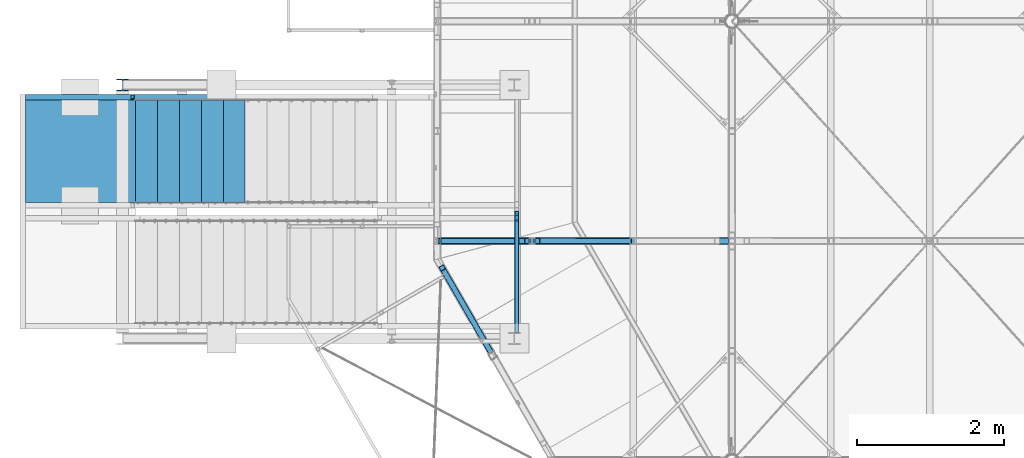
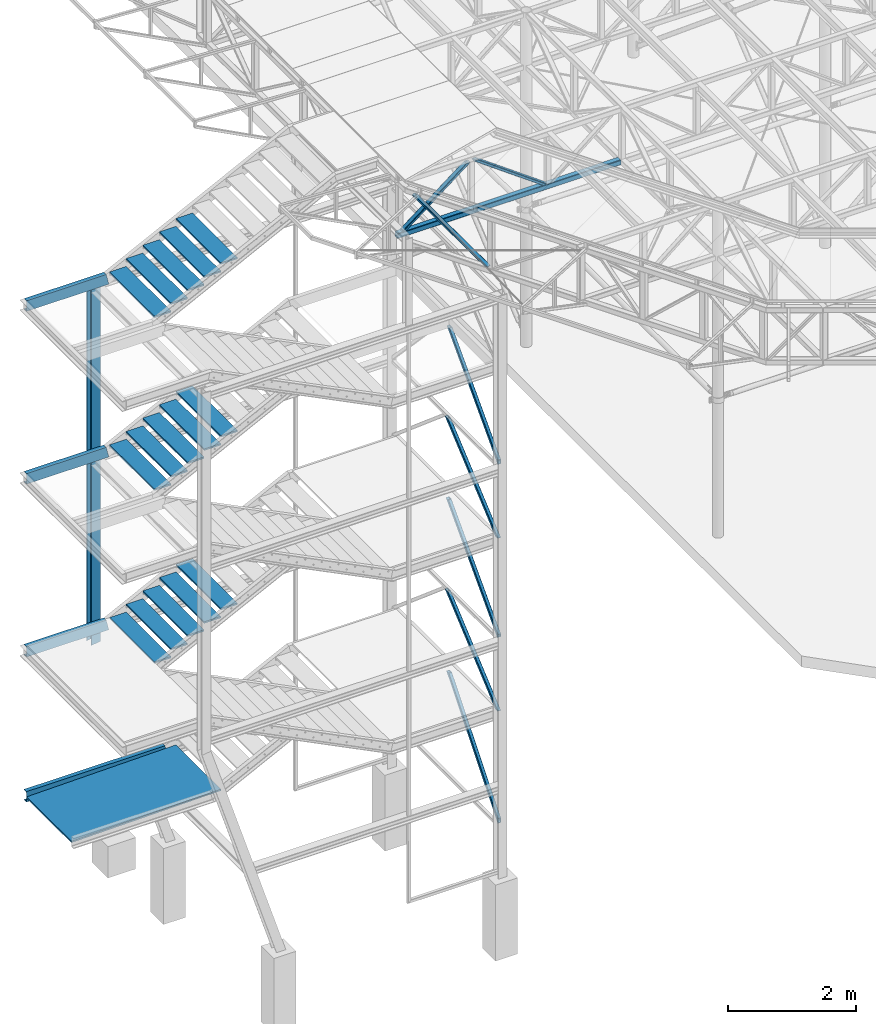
# One storey, part 39 of 132: 30 discrete accessories, 28 elements without a shape of their own.
"""IFC2X3 building model written with IfcOpenShell, lengths in millimetres."""

import ifcopenshell
import ifcopenshell.guid

model = None  # the IFC model being written
_history = None  # IfcOwnerHistory: only IFC2X3 demands one
_inside = {}  # id of a spatial element -> (the spatial element, [elements in it])
_under = {}  # id of a project, library or spatial element -> (it, [spatial elements below it])
_declared = {}  # id of a project -> (the project, [libraries it declares])
_typed = {}  # id of a type object -> (the type object, [elements of that type])
_made_of = {}  # id of a material, layer set ... -> (it, [elements and type objects made of it])


def new_model(schema):
    """Start an empty IFC model of exactly this schema.

    Asked for "IFC4X3", IfcOpenShell would pick the latest addendum, in which some entities
    have other attributes; the version numbers below select the first issue.
    IFC2X3 requires an IfcOwnerHistory on every rooted entity: one is made here for all.
    """
    global model, _history
    if schema == "IFC4X3":
        model = ifcopenshell.file(schema_version=(4, 3, 0, 0))
    else:
        model = ifcopenshell.file(schema=schema)
    _inside.clear()
    _under.clear()
    _declared.clear()
    _typed.clear()
    _made_of.clear()
    _history = None
    if model.schema == "IFC2X3":
        org = make("IfcOrganization", Name="unknown")
        user = make(
            "IfcPersonAndOrganization",
            ThePerson=make("IfcPerson", FamilyName="unknown"),
            TheOrganization=org,
        )
        app = make(
            "IfcApplication",
            ApplicationDeveloper=org,
            Version="unknown",
            ApplicationFullName="unknown",
            ApplicationIdentifier="unknown",
        )
        _history = make(
            "IfcOwnerHistory",
            OwningUser=user,
            OwningApplication=app,
            ChangeAction="ADDED",
            CreationDate=0,
        )
    return model


def make(cls, **values):
    """One entity of the class cls with the attributes given. An attribute that is None is left unset."""
    return model.create_entity(
        cls, **{name: value for name, value in values.items() if value is not None}
    )


def rooted(cls, **values):
    """An entity with a GlobalId (a new one), such as an element, a storey or a relation."""
    return make(cls, GlobalId=ifcopenshell.guid.new(), OwnerHistory=_history, **values)


def si_unit(unit_type, name, prefix=None):
    """IfcSIUnit, for example si_unit("LENGTHUNIT", "METRE", prefix="MILLI")."""
    return make("IfcSIUnit", UnitType=unit_type, Prefix=prefix, Name=name)


def assignment(units):
    """IfcUnitAssignment: the units of a project."""
    return None if units is None else make("IfcUnitAssignment", Units=units)


def point(xyz):
    """IfcCartesianPoint."""
    return None if xyz is None else make("IfcCartesianPoint", Coordinates=xyz)


def direction(xyz):
    """IfcDirection."""
    return None if xyz is None else make("IfcDirection", DirectionRatios=xyz)


def frame(location, z_axis=None, x_axis=None):
    """IfcAxis2Placement3D, a coordinate frame: its origin and axes. An axis left out is left unset."""
    return make(
        "IfcAxis2Placement3D",
        Location=point(location),
        Axis=direction(z_axis),
        RefDirection=direction(x_axis),
    )


def frame_2d(location, x_axis=None):
    """IfcAxis2Placement2D, a coordinate frame in the plane: its origin and x axis."""
    return make(
        "IfcAxis2Placement2D", Location=point(location), RefDirection=direction(x_axis)
    )


def origin_with_axes():
    """The frame at (0, 0, 0) with the z axis (0, 0, 1) and the x axis (1, 0, 0) written out."""
    return frame((0.0, 0.0, 0.0), z_axis=(0.0, 0.0, 1.0), x_axis=(1.0, 0.0, 0.0))


def origin_2d_with_axis():
    """The frame at (0, 0) in the plane with the x axis (1, 0) written out."""
    return frame_2d((0.0, 0.0), x_axis=(1.0, 0.0))


def place(relative_to, where):
    """IfcLocalPlacement: puts the frame where relative to a parent placement (None: the world)."""
    return make(
        "IfcLocalPlacement", PlacementRelTo=relative_to, RelativePlacement=where
    )


def context(
    kind, dimensions, precision=None, world=None, true_north=None, identifier=None
):
    """IfcGeometricRepresentationContext, for example the 3D "Model" context."""
    return make(
        "IfcGeometricRepresentationContext",
        ContextIdentifier=identifier,
        ContextType=kind,
        CoordinateSpaceDimension=dimensions,
        Precision=precision,
        WorldCoordinateSystem=world,
        TrueNorth=true_north,
    )


def subcontext(parent, identifier, kind, view, scale=None):
    """IfcGeometricRepresentationSubContext, for example "Body" below "Model"."""
    return make(
        "IfcGeometricRepresentationSubContext",
        ContextIdentifier=identifier,
        ContextType=kind,
        ParentContext=parent,
        TargetScale=scale,
        TargetView=view,
    )


def project(units=None, contexts=None):
    """IfcProject with its units and contexts."""
    return rooted(
        "IfcProject",
        Name="project",
        RepresentationContexts=contexts,
        UnitsInContext=assignment(units),
    )


def spatial(cls, under=None, at=None, **own):
    """A site, building, storey or space (cls), placed at a placement, below another one or the project."""
    s = rooted(cls, ObjectPlacement=at, **own)
    if under is not None:
        _under.setdefault(under.id(), (under, []))[1].append(s)
    return s


def polyline(points):
    """IfcPolyline through the points."""
    return make("IfcPolyline", Points=[point(p) for p in points])


def profile(cls, at=None, kind="AREA", **sizes):
    """A parametric profile (cls). Its sizes go by their IFC names, for example OverallWidth=200.0."""
    return make(cls, ProfileType=kind, Position=at, **sizes)


def hollow_rectangle(**sizes):
    """IfcRectangleHollowProfileDef."""
    return profile("IfcRectangleHollowProfileDef", **sizes)


def i_section(**sizes):
    """IfcIShapeProfileDef."""
    return profile("IfcIShapeProfileDef", **sizes)


def u_section(**sizes):
    """IfcUShapeProfileDef."""
    return profile("IfcUShapeProfileDef", **sizes)


def outline(outer, holes=None, kind="AREA"):
    """IfcArbitraryClosedProfileDef: a profile drawn as a closed curve; with holes, ...WithVoids."""
    if holes is None:
        return make("IfcArbitraryClosedProfileDef", ProfileType=kind, OuterCurve=outer)
    return make(
        "IfcArbitraryProfileDefWithVoids",
        ProfileType=kind,
        OuterCurve=outer,
        InnerCurves=holes,
    )


def extrude(swept, where, along, depth):
    """IfcExtrudedAreaSolid: the profile swept, set in the frame where, extruded along a direction by depth."""
    return make(
        "IfcExtrudedAreaSolid",
        SweptArea=swept,
        Position=where,
        ExtrudedDirection=direction(along),
        Depth=depth,
    )


def boolean(op, a, b):
    """IfcBooleanResult of two solids."""
    return make("IfcBooleanResult", Operator=op, FirstOperand=a, SecondOperand=b)


def clip(a, b, op="DIFFERENCE"):
    """IfcBooleanClippingResult: the solid a cut by the half space b."""
    return make(
        "IfcBooleanClippingResult", Operator=op, FirstOperand=a, SecondOperand=b
    )


def halfspace(plane, agree):
    """IfcHalfSpaceSolid: all space on one side of the plane z = 0 of the frame plane."""
    return make(
        "IfcHalfSpaceSolid",
        BaseSurface=make("IfcPlane", Position=plane),
        AgreementFlag=agree,
    )


def shape(context_of_items, identifier, shape_type, items):
    """IfcShapeRepresentation: the items that make up one representation, for example the "Body"."""
    return make(
        "IfcShapeRepresentation",
        ContextOfItems=context_of_items,
        RepresentationIdentifier=identifier,
        RepresentationType=shape_type,
        Items=items,
    )


def material(Name=None, Category=None):
    """IfcMaterial."""
    return make("IfcMaterial", Name=Name, Category=Category)


def made_of(thing, what):
    """Note that an element or type object is made of a material, layer set ...; save() writes the relation."""
    if what is not None:
        _made_of.setdefault(what.id(), (what, []))[1].append(thing)
    return thing


def type_object(cls, material=None, **own):
    """A type object (cls), such as IfcWallType, which elements share."""
    return made_of(rooted(cls, **own), material)


def element(
    cls,
    number,
    at=None,
    inside=None,
    cuts=None,
    type_object=None,
    material=None,
    context=None,
    identifier="Body",
    shape_type=None,
    held_by="IfcProductDefinitionShape",
    body=None,
    shapes=None,
    **own,
):
    """One element of the class cls, such as IfcWall. Its Tag is "e" and its number.

    at: its placement. inside: the storey or other place that contains it. cuts: it is an
    opening in that element (IfcRelVoidsElement). A single representation is given by context,
    identifier, shape_type and body (its items); several are given by shapes. held_by: the class
    of the entity that holds the representations. save() writes the other relations.
    """
    e = rooted(cls, Tag="e%d" % number, ObjectPlacement=at, **own)
    if body is not None:
        shapes = [shape(context, identifier, shape_type, body)]
    if shapes is not None:
        e.Representation = make(held_by, Representations=shapes)
    if inside is not None:
        _inside.setdefault(inside.id(), (inside, []))[1].append(e)
    if cuts is not None:
        rooted(
            "IfcRelVoidsElement", RelatingBuildingElement=cuts, RelatedOpeningElement=e
        )
    if type_object is not None:
        _typed.setdefault(type_object.id(), (type_object, []))[1].append(e)
    return made_of(e, material)


def aggregate(whole, parts):
    """IfcRelAggregates: a whole, such as a stair, and the parts it consists of."""
    return rooted("IfcRelAggregates", RelatingObject=whole, RelatedObjects=parts)


def save(model, path):
    """Write the relations noted so far, then the file.

    IfcRelAggregates (storeys below a building ...), IfcRelContainedInSpatialStructure (elements
    in a storey), IfcRelDefinesByType, IfcRelAssociatesMaterial and IfcRelDeclares: one each for
    every whole, place, type object, material and project.
    """
    for whole, parts in _under.values():
        aggregate(whole, parts)
    for where, things in _inside.values():
        rooted(
            "IfcRelContainedInSpatialStructure",
            RelatedElements=things,
            RelatingStructure=where,
        )
    for kind, things in _typed.values():
        rooted("IfcRelDefinesByType", RelatedObjects=things, RelatingType=kind)
    for what, things in _made_of.values():
        rooted("IfcRelAssociatesMaterial", RelatedObjects=things, RelatingMaterial=what)
    for by, libraries in _declared.values():
        rooted("IfcRelDeclares", RelatingContext=by, RelatedDefinitions=libraries)
    model.write(path)


model = new_model("IFC2X3")

# Units and contexts
model_context = context("Model", 3, precision=1e-05, world=origin_with_axes())
body_context = subcontext(model_context, "Body", "Model", "MODEL_VIEW")
ifc_project = project(units=[si_unit("LENGTHUNIT", "METRE", prefix="MILLI"), si_unit("AREAUNIT", "SQUARE_METRE"), si_unit("VOLUMEUNIT", "CUBIC_METRE"), si_unit("MASSUNIT", "GRAM", prefix="KILO"), si_unit("TIMEUNIT", "SECOND"), si_unit("PLANEANGLEUNIT", "RADIAN"), si_unit("SOLIDANGLEUNIT", "STERADIAN"), si_unit("THERMODYNAMICTEMPERATUREUNIT", "DEGREE_CELSIUS"), si_unit("LUMINOUSINTENSITYUNIT", "LUMEN")], contexts=[model_context])

# Site, building, storey
site_placement = place(None, origin_with_axes())
site = spatial("IfcSite", under=ifc_project, at=site_placement, Name="Budowa", CompositionType="ELEMENT")
building_placement = place(site_placement, origin_with_axes())
building = spatial("IfcBuilding", under=site, at=building_placement, Name="Undefined", CompositionType="ELEMENT")
storey_placement = place(building_placement, origin_with_axes())
storey = spatial("IfcBuildingStorey", under=building, at=storey_placement, Name="Undefined", CompositionType="ELEMENT", Elevation=0.0)

# Assembly, discrete accessory
assembly_1_placement = place(storey_placement, origin_with_axes())
assembly_1 = element("IfcElementAssembly", 1, at=assembly_1_placement, inside=storey, Name="Steel Assembly", AssemblyPlace="NOTDEFINED", PredefinedType="RIGID_FRAME")
ifc_material_1 = material(Name="STEEL/S235")
discrete_accessory_type_1 = type_object("IfcDiscreteAccessoryType", Name="BEAM")
discrete_accessory_1_placement = place(assembly_1_placement, frame((760.301212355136, 7434.23487827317, 12830.0000000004), z_axis=(-0.866025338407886, -0.500000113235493, 0.0), x_axis=(-0.412062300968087, 0.713712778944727, 0.566408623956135)))
solid_1 = boolean("DIFFERENCE", boolean("DIFFERENCE", extrude(hollow_rectangle(XDim=90.0, YDim=90.0, WallThickness=4.0, InnerFilletRadius=4.0, OuterFilletRadius=8.0, at=origin_2d_with_axis()), frame((538.088192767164, -782.918320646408, 9.82236597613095e-08), z_axis=(-0.566408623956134, 0.824124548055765, -1.04792036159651e-10), x_axis=(0.0, 0.0, 1.0)), (0.0, 0.0, 1.0), 900.0), halfspace(frame((1362.21274082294, -216.509696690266, 2.50474840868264e-07), z_axis=(-0.566408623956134, 0.824124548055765, -1.04792036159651e-10), x_axis=(0.0, 0.0, 1.0)), True)), halfspace(frame((852.444979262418, 525.20239655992, 1.56163878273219e-07), z_axis=(0.566408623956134, -0.824124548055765, 1.04790926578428e-10), x_axis=(0.0, 0.0, -1.0)), True))
discrete_accessory_1 = element("IfcDiscreteAccessory", 2, at=discrete_accessory_1_placement, type_object=discrete_accessory_type_1, material=ifc_material_1, Name="BEAM", ObjectType="RHS80*40*4", context=body_context, shape_type="CSG", body=[
    boolean("DIFFERENCE", boolean("DIFFERENCE", boolean("DIFFERENCE", extrude(hollow_rectangle(XDim=40.0, YDim=80.0, WallThickness=4.0, InnerFilletRadius=4.0, OuterFilletRadius=8.0, at=origin_2d_with_axis()), frame((1787.39149860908, -1.98440319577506e-13, -3.60765181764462e-12), z_axis=(-1.0, 0.0, 0.0), x_axis=(0.0, -1.0, 0.0)), (0.0, 0.0, 1.0), 1809.27), solid_1), halfspace(frame((1737.18941028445, 41.2062274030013, 999.999999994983), z_axis=(-0.566408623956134, 0.824124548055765, -1.04792036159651e-10), x_axis=(-0.824124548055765, -0.566408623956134, -1.52471329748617e-10)), True)), halfspace(frame((28.3204310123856, -41.2062274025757, 1000.00000000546), z_axis=(0.566408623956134, -0.824124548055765, 1.04790926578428e-10), x_axis=(0.824124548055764, 0.566408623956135, 1.52471329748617e-10)), True)),
])
aggregate(assembly_1, [discrete_accessory_1])

# Assembly, discrete accessories
assembly_2_placement = place(storey_placement, origin_with_axes())
assembly_2 = element("IfcElementAssembly", 3, at=assembly_2_placement, inside=storey, Name="Steel Assembly", AssemblyPlace="NOTDEFINED", PredefinedType="RIGID_FRAME")
discrete_accessory_2_placement = place(assembly_2_placement, frame((1295.10000038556, 9000.00000004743, 13830.0000000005), z_axis=(0.0, -1.0, 0.0), x_axis=(0.809951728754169, 0.0, -0.586496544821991)))
solid_2 = boolean("DIFFERENCE", boolean("DIFFERENCE", extrude(hollow_rectangle(XDim=90.0, YDim=90.0, WallThickness=6.0, InnerFilletRadius=6.0, OuterFilletRadius=12.0, at=origin_2d_with_axis()), frame((1675.71505464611, 40.497585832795, 3.74711817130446e-10), z_axis=(-0.586496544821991, 0.809951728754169, 0.0), x_axis=(0.0, 0.0, 1.0)), (0.0, 0.0, 1.0), 900.0), halfspace(frame((2485.66678340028, 626.994130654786, 3.74711817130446e-10), z_axis=(-0.586496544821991, 0.809951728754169, 0.0), x_axis=(-0.809951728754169, -0.58649654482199, 0.0)), True)), halfspace(frame((1957.81989306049, 1355.95068653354, 3.74711817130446e-10), z_axis=(0.58649654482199, -0.809951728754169, 0.0), x_axis=(-0.809951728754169, -0.58649654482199, 0.0)), True))
solid_3 = boolean("DIFFERENCE", boolean("DIFFERENCE", extrude(hollow_rectangle(XDim=90.0, YDim=90.0, WallThickness=6.0, InnerFilletRadius=6.0, OuterFilletRadius=12.0, at=origin_2d_with_axis()), frame((557.171717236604, -769.454142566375, 3.74711817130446e-10), z_axis=(-0.586496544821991, 0.809951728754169, 0.0), x_axis=(0.0, 0.0, 1.0)), (0.0, 0.0, 1.0), 900.0), halfspace(frame((1367.12344599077, -182.957597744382, 3.74711817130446e-10), z_axis=(-0.586496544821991, 0.809951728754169, 0.0), x_axis=(-0.809951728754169, -0.58649654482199, 0.0)), True)), halfspace(frame((839.276555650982, 545.998958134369, 3.74711817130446e-10), z_axis=(0.58649654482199, -0.809951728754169, 0.0), x_axis=(-0.809951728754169, -0.58649654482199, 0.0)), True))
discrete_accessory_2 = element("IfcDiscreteAccessory", 4, at=discrete_accessory_2_placement, type_object=discrete_accessory_type_1, material=ifc_material_1, Name="BEAM", ObjectType="RHS90*50*5", context=body_context, shape_type="CSG", body=[
    boolean("DIFFERENCE", boolean("DIFFERENCE", boolean("DIFFERENCE", boolean("DIFFERENCE", extrude(hollow_rectangle(XDim=50.0, YDim=90.0, WallThickness=5.0, InnerFilletRadius=7.5, OuterFilletRadius=12.5, at=origin_2d_with_axis()), frame((1659.13615307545, -9.21005579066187e-14, 1.81898940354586e-12), z_axis=(-1.0, 0.0, 0.0), x_axis=(0.0, -1.0, 0.0)), (0.0, 0.0, 1.0), 1613.23), solid_2), solid_3), halfspace(frame((1675.7150554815, 40.4975864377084, 1000.0), z_axis=(-0.586496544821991, 0.809951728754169, 0.0), x_axis=(-0.809951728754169, -0.58649654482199, 0.0)), True)), halfspace(frame((29.3248272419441, -40.4975864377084, 1000.0), z_axis=(0.58649654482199, -0.809951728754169, 0.0), x_axis=(0.809951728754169, 0.58649654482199, 0.0)), True)),
])
discrete_accessory_3_placement = place(assembly_2_placement, frame((0.0999999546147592, 9000.00000004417, 12830.0000000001), z_axis=(0.0, -1.0, 0.0), x_axis=(0.791486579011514, 0.0, 0.611186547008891)))
solid_4 = boolean("DIFFERENCE", boolean("DIFFERENCE", extrude(hollow_rectangle(XDim=100.0, YDim=100.0, WallThickness=8.0, InnerFilletRadius=8.0, OuterFilletRadius=16.0, at=origin_2d_with_axis()), frame((30.5593273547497, 39.5743289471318, -2.88673618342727e-09), z_axis=(0.611186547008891, 0.791486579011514, 0.0), x_axis=(0.0, 0.0, 1.0)), (0.0, 0.0, 1.0), 900.0), halfspace(frame((822.045906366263, -571.612218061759, -2.88673618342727e-09), z_axis=(0.611186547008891, 0.791486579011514, 0.0), x_axis=(-0.791486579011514, 0.611186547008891, 0.0)), True)), halfspace(frame((1372.11379867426, 140.725703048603, -2.88673618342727e-09), z_axis=(-0.611186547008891, -0.791486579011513, 0.0), x_axis=(-0.791486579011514, 0.611186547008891, 0.0)), True))
solid_5 = boolean("DIFFERENCE", boolean("DIFFERENCE", extrude(hollow_rectangle(XDim=90.0, YDim=90.0, WallThickness=6.0, InnerFilletRadius=6.0, OuterFilletRadius=12.0, at=origin_2d_with_axis()), frame((1055.53444717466, -751.912249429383, -2.88673618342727e-09), z_axis=(0.611186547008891, 0.791486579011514, 0.0), x_axis=(0.0, 0.0, 1.0)), (0.0, 0.0, 1.0), 900.0), halfspace(frame((1847.02102618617, -1363.09879643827, -2.88673618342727e-09), z_axis=(0.611186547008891, 0.791486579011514, 0.0), x_axis=(-0.791486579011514, 0.611186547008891, 0.0)), True)), halfspace(frame((2397.08891849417, -650.760875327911, -2.88673618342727e-09), z_axis=(-0.611186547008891, -0.791486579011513, 0.0), x_axis=(-0.791486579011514, 0.611186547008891, 0.0)), True))
discrete_accessory_3 = element("IfcDiscreteAccessory", 5, at=discrete_accessory_3_placement, type_object=discrete_accessory_type_1, material=ifc_material_1, Name="BEAM", ObjectType="RHS90*50*5", context=body_context, shape_type="CSG", body=[
    boolean("DIFFERENCE", boolean("DIFFERENCE", boolean("DIFFERENCE", boolean("DIFFERENCE", extrude(hollow_rectangle(XDim=50.0, YDim=90.0, WallThickness=5.0, InnerFilletRadius=7.5, OuterFilletRadius=12.5, at=origin_2d_with_axis()), frame((1581.93293336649, 8.78149183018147e-14, 0.0), z_axis=(-1.0, 0.0, 0.0), x_axis=(0.0, -1.0, 0.0)), (0.0, 0.0, 1.0), 1527.7), solid_4), solid_5), halfspace(frame((1605.60234030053, -39.5743289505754, 1000.0), z_axis=(-0.611186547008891, -0.791486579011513, 0.0), x_axis=(0.791486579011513, -0.611186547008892, 0.0)), True)), halfspace(frame((30.5593273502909, 39.5743289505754, 1000.0), z_axis=(0.611186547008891, 0.791486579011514, 0.0), x_axis=(-0.791486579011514, 0.611186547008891, 0.0)), True)),
])
discrete_accessory_4_placement = place(assembly_2_placement, frame((3975.09999996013, 9000.00000004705, 12830.0), z_axis=(0.0, -1.0, 0.0), x_axis=(-1.0, 0.0, 0.0)))
discrete_accessory_4 = element("IfcDiscreteAccessory", 6, at=discrete_accessory_4_placement, type_object=discrete_accessory_type_1, material=ifc_material_1, Name="BEAM", ObjectType="SHS100*8", context=body_context, shape_type="SweptSolid", body=[
    extrude(hollow_rectangle(XDim=100.0, YDim=100.0, WallThickness=8.0, InnerFilletRadius=8.0, OuterFilletRadius=16.0, at=origin_2d_with_axis()), frame((4025.0, 0.0, 0.0), z_axis=(-1.0, 0.0, 0.0), x_axis=(0.0, -1.0, 0.0)), (0.0, 0.0, 1.0), 4025.0),
])
aggregate(assembly_2, [discrete_accessory_2, discrete_accessory_3, discrete_accessory_4])

# Assembly, discrete accessory
assembly_3_placement = place(storey_placement, origin_with_axes())
assembly_3 = element("IfcElementAssembly", 7, at=assembly_3_placement, inside=storey, Name="Steel Assembly", AssemblyPlace="NOTDEFINED", PredefinedType="RIGID_FRAME")
discrete_accessory_type_2 = type_object("IfcDiscreteAccessoryType", Name="BELKA")
discrete_accessory_5_placement = place(assembly_3_placement, frame((-4180.00000008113, 10962.5000000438, 12249.9999999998), z_axis=(0.0, 0.0, 1.0), x_axis=(-1.0, 0.0, 0.0)))
discrete_accessory_5 = element("IfcDiscreteAccessory", 8, at=discrete_accessory_5_placement, type_object=discrete_accessory_type_2, material=ifc_material_1, Name="BELKA", ObjectType="UPN200", context=body_context, shape_type="Clipping", body=[
    clip(extrude(u_section(Depth=200.0, FlangeWidth=75.0, WebThickness=8.5, FlangeThickness=11.5, FilletRadius=11.5, EdgeRadius=6.0, at=origin_2d_with_axis()), frame((1440.00000000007, 0.0, 0.0), z_axis=(-1.0, 0.0, 0.0), x_axis=(0.0, -1.0, 0.0)), (0.0, 0.0, 1.0), 1487.45), halfspace(frame((3.68811288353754e-06, -3.63797880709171e-12, 100.0), z_axis=(0.97324898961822, 0.0, -0.229752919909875), x_axis=(0.0, 1.0, 0.0)), True)),
])
aggregate(assembly_3, [discrete_accessory_5])

assembly_4_placement = place(storey_placement, origin_with_axes())
assembly_4 = element("IfcElementAssembly", 9, at=assembly_4_placement, inside=storey, Name="Steel Assembly", AssemblyPlace="NOTDEFINED", PredefinedType="RIGID_FRAME")
discrete_accessory_6_placement = place(assembly_4_placement, frame((-4180.00000008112, 10962.5000000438, 8949.99999999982), z_axis=(0.0, 0.0, 1.0), x_axis=(-1.0, 0.0, 0.0)))
discrete_accessory_6 = element("IfcDiscreteAccessory", 10, at=discrete_accessory_6_placement, type_object=discrete_accessory_type_2, material=ifc_material_1, Name="BELKA", ObjectType="UPN200", context=body_context, shape_type="Clipping", body=[
    clip(extrude(u_section(Depth=200.0, FlangeWidth=75.0, WebThickness=8.5, FlangeThickness=11.5, FilletRadius=11.5, EdgeRadius=6.0, at=origin_2d_with_axis()), frame((1440.00000000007, 0.0, 0.0), z_axis=(-1.0, 0.0, 0.0), x_axis=(0.0, -1.0, 0.0)), (0.0, 0.0, 1.0), 1487.45), halfspace(frame((3.68811288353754e-06, -3.63797880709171e-12, 100.0), z_axis=(0.97324898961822, 0.0, -0.229752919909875), x_axis=(0.0, 1.0, 0.0)), True)),
])
aggregate(assembly_4, [discrete_accessory_6])

assembly_5_placement = place(storey_placement, origin_with_axes())
assembly_5 = element("IfcElementAssembly", 11, at=assembly_5_placement, inside=storey, Name="Steel Assembly", AssemblyPlace="NOTDEFINED", PredefinedType="RIGID_FRAME")
discrete_accessory_7_placement = place(assembly_5_placement, frame((-4180.00000008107, 10962.5000000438, 5649.99999999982), z_axis=(0.0, 0.0, 1.0), x_axis=(-1.0, 0.0, 0.0)))
discrete_accessory_7 = element("IfcDiscreteAccessory", 12, at=discrete_accessory_7_placement, type_object=discrete_accessory_type_2, material=ifc_material_1, Name="BELKA", ObjectType="UPN200", context=body_context, shape_type="Clipping", body=[
    clip(extrude(u_section(Depth=200.0, FlangeWidth=75.0, WebThickness=8.5, FlangeThickness=11.5, FilletRadius=11.5, EdgeRadius=6.0, at=origin_2d_with_axis()), frame((1440.00000000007, 0.0, 0.0), z_axis=(-1.0, 0.0, 0.0), x_axis=(0.0, -1.0, 0.0)), (0.0, 0.0, 1.0), 1487.45), halfspace(frame((3.68811288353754e-06, -3.63797880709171e-12, 100.0), z_axis=(0.97324898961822, 0.0, -0.229752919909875), x_axis=(0.0, 1.0, 0.0)), True)),
])
aggregate(assembly_5, [discrete_accessory_7])

assembly_6_placement = place(storey_placement, origin_with_axes())
assembly_6 = element("IfcElementAssembly", 13, at=assembly_6_placement, inside=storey, Name="Steel Assembly", AssemblyPlace="NOTDEFINED", PredefinedType="RIGID_FRAME")
discrete_accessory_8_placement = place(assembly_6_placement, frame((-3120.00000008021, 10962.5000000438, 2879.99999999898), z_axis=(0.0, 0.0, 1.0), x_axis=(-1.0, 0.0, 0.0)))
discrete_accessory_8 = element("IfcDiscreteAccessory", 14, at=discrete_accessory_8_placement, type_object=discrete_accessory_type_2, material=ifc_material_1, Name="BELKA", ObjectType="UPN200", context=body_context, shape_type="Clipping", body=[
    clip(extrude(u_section(Depth=200.0, FlangeWidth=75.0, WebThickness=8.5, FlangeThickness=11.5, FilletRadius=11.5, EdgeRadius=6.0, at=origin_2d_with_axis()), frame((2500.00000000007, 0.0, 0.0), z_axis=(-1.0, 0.0, 0.0), x_axis=(0.0, -1.0, 0.0)), (0.0, 0.0, 1.0), 2547.45), halfspace(frame((3.68811288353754e-06, -3.63797880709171e-12, 100.0), z_axis=(0.97324898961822, 0.0, -0.229752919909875), x_axis=(0.0, 1.0, 0.0)), True)),
])
aggregate(assembly_6, [discrete_accessory_8])

assembly_7_placement = place(storey_placement, origin_with_axes())
assembly_7 = element("IfcElementAssembly", 15, at=assembly_7_placement, inside=storey, Name="Steel Assembly", AssemblyPlace="NOTDEFINED", PredefinedType="RIGID_FRAME")
ifc_material_2 = material(Name="STEEL/S235JR")
discrete_accessory_type_3 = type_object("IfcDiscreteAccessoryType", Name="STOPNIE")
discrete_accessory_9_placement = place(assembly_7_placement, frame((-2770.00000008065, 9525.0000000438, 12964.9999999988), z_axis=(0.0, 0.0, -1.0), x_axis=(0.0, 1.0, 0.0)))
discrete_accessory_9 = element("IfcDiscreteAccessory", 16, at=discrete_accessory_9_placement, type_object=discrete_accessory_type_3, material=ifc_material_2, Name="STOPNIE", ObjectType="PL30*300", context=body_context, shape_type="SweptSolid", body=[
    extrude(outline(polyline([(0.0, -150.0), (0.0, 150.0), (1400.0, 150.0), (1400.0, -150.0), (0.0, -150.0)])), frame((0.0, 0.0, -15.0), z_axis=(0.0, 0.0, 1.0), x_axis=(1.0, 0.0, 0.0)), (0.0, 0.0, 1.0), 30.0),
])
aggregate(assembly_7, [discrete_accessory_9])

assembly_8_placement = place(storey_placement, origin_with_axes())
assembly_8 = element("IfcElementAssembly", 17, at=assembly_8_placement, inside=storey, Name="Steel Assembly", AssemblyPlace="NOTDEFINED", PredefinedType="RIGID_FRAME")
discrete_accessory_10_placement = place(assembly_8_placement, frame((-3070.00000008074, 9525.0000000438, 12814.9999999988), z_axis=(0.0, 0.0, -1.0), x_axis=(0.0, 1.0, 0.0)))
discrete_accessory_10 = element("IfcDiscreteAccessory", 18, at=discrete_accessory_10_placement, type_object=discrete_accessory_type_3, material=ifc_material_2, Name="STOPNIE", ObjectType="PL30*300", context=body_context, shape_type="SweptSolid", body=[
    extrude(outline(polyline([(0.0, -150.0), (0.0, 150.0), (1400.0, 150.0), (1400.0, -150.0), (0.0, -150.0)])), frame((0.0, 0.0, -15.0), z_axis=(0.0, 0.0, 1.0), x_axis=(1.0, 0.0, 0.0)), (0.0, 0.0, 1.0), 30.0),
])
aggregate(assembly_8, [discrete_accessory_10])

assembly_9_placement = place(storey_placement, origin_with_axes())
assembly_9 = element("IfcElementAssembly", 19, at=assembly_9_placement, inside=storey, Name="Steel Assembly", AssemblyPlace="NOTDEFINED", PredefinedType="RIGID_FRAME")
discrete_accessory_11_placement = place(assembly_9_placement, frame((-3370.00000008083, 9525.0000000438, 12664.9999999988), z_axis=(0.0, 0.0, -1.0), x_axis=(0.0, 1.0, 0.0)))
discrete_accessory_11 = element("IfcDiscreteAccessory", 20, at=discrete_accessory_11_placement, type_object=discrete_accessory_type_3, material=ifc_material_2, Name="STOPNIE", ObjectType="PL30*300", context=body_context, shape_type="SweptSolid", body=[
    extrude(outline(polyline([(0.0, -150.0), (0.0, 150.0), (1400.0, 150.0), (1400.0, -150.0), (0.0, -150.0)])), frame((0.0, 0.0, -15.0), z_axis=(0.0, 0.0, 1.0), x_axis=(1.0, 0.0, 0.0)), (0.0, 0.0, 1.0), 30.0),
])
aggregate(assembly_9, [discrete_accessory_11])

assembly_10_placement = place(storey_placement, origin_with_axes())
assembly_10 = element("IfcElementAssembly", 21, at=assembly_10_placement, inside=storey, Name="Steel Assembly", AssemblyPlace="NOTDEFINED", PredefinedType="RIGID_FRAME")
discrete_accessory_12_placement = place(assembly_10_placement, frame((-3670.00000008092, 9525.0000000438, 12514.9999999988), z_axis=(0.0, 0.0, -1.0), x_axis=(0.0, 1.0, 0.0)))
discrete_accessory_12 = element("IfcDiscreteAccessory", 22, at=discrete_accessory_12_placement, type_object=discrete_accessory_type_3, material=ifc_material_2, Name="STOPNIE", ObjectType="PL30*300", context=body_context, shape_type="SweptSolid", body=[
    extrude(outline(polyline([(0.0, -150.0), (0.0, 150.0), (1400.0, 150.0), (1400.0, -150.0), (0.0, -150.0)])), frame((0.0, 0.0, -15.0), z_axis=(0.0, 0.0, 1.0), x_axis=(1.0, 0.0, 0.0)), (0.0, 0.0, 1.0), 30.0),
])
aggregate(assembly_10, [discrete_accessory_12])

assembly_11_placement = place(storey_placement, origin_with_axes())
assembly_11 = element("IfcElementAssembly", 23, at=assembly_11_placement, inside=storey, Name="Steel Assembly", AssemblyPlace="NOTDEFINED", PredefinedType="RIGID_FRAME")
discrete_accessory_13_placement = place(assembly_11_placement, frame((-3970.00000008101, 9525.0000000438, 12364.9999999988), z_axis=(0.0, 0.0, -1.0), x_axis=(0.0, 1.0, 0.0)))
discrete_accessory_13 = element("IfcDiscreteAccessory", 24, at=discrete_accessory_13_placement, type_object=discrete_accessory_type_3, material=ifc_material_2, Name="STOPNIE", ObjectType="PL30*300", context=body_context, shape_type="SweptSolid", body=[
    extrude(outline(polyline([(0.0, -150.0), (0.0, 150.0), (1400.0, 150.0), (1400.0, -150.0), (0.0, -150.0)])), frame((0.0, 0.0, -15.0), z_axis=(0.0, 0.0, 1.0), x_axis=(1.0, 0.0, 0.0)), (0.0, 0.0, 1.0), 30.0),
])
aggregate(assembly_11, [discrete_accessory_13])

assembly_12_placement = place(storey_placement, origin_with_axes())
assembly_12 = element("IfcElementAssembly", 25, at=assembly_12_placement, inside=storey, Name="Steel Assembly", AssemblyPlace="NOTDEFINED", PredefinedType="RIGID_FRAME")
discrete_accessory_14_placement = place(assembly_12_placement, frame((-2770.00000008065, 9525.0000000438, 9664.99999999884), z_axis=(0.0, 0.0, -1.0), x_axis=(0.0, 1.0, 0.0)))
discrete_accessory_14 = element("IfcDiscreteAccessory", 26, at=discrete_accessory_14_placement, type_object=discrete_accessory_type_3, material=ifc_material_2, Name="STOPNIE", ObjectType="PL30*300", context=body_context, shape_type="SweptSolid", body=[
    extrude(outline(polyline([(0.0, -150.0), (0.0, 150.0), (1400.0, 150.0), (1400.0, -150.0), (0.0, -150.0)])), frame((0.0, 0.0, -15.0), z_axis=(0.0, 0.0, 1.0), x_axis=(1.0, 0.0, 0.0)), (0.0, 0.0, 1.0), 30.0),
])
aggregate(assembly_12, [discrete_accessory_14])

assembly_13_placement = place(storey_placement, origin_with_axes())
assembly_13 = element("IfcElementAssembly", 27, at=assembly_13_placement, inside=storey, Name="Steel Assembly", AssemblyPlace="NOTDEFINED", PredefinedType="RIGID_FRAME")
discrete_accessory_15_placement = place(assembly_13_placement, frame((-3070.00000008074, 9525.0000000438, 9514.99999999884), z_axis=(0.0, 0.0, -1.0), x_axis=(0.0, 1.0, 0.0)))
discrete_accessory_15 = element("IfcDiscreteAccessory", 28, at=discrete_accessory_15_placement, type_object=discrete_accessory_type_3, material=ifc_material_2, Name="STOPNIE", ObjectType="PL30*300", context=body_context, shape_type="SweptSolid", body=[
    extrude(outline(polyline([(0.0, -150.0), (0.0, 150.0), (1400.0, 150.0), (1400.0, -150.0), (0.0, -150.0)])), frame((0.0, 0.0, -15.0), z_axis=(0.0, 0.0, 1.0), x_axis=(1.0, 0.0, 0.0)), (0.0, 0.0, 1.0), 30.0),
])
aggregate(assembly_13, [discrete_accessory_15])

assembly_14_placement = place(storey_placement, origin_with_axes())
assembly_14 = element("IfcElementAssembly", 29, at=assembly_14_placement, inside=storey, Name="Steel Assembly", AssemblyPlace="NOTDEFINED", PredefinedType="RIGID_FRAME")
discrete_accessory_16_placement = place(assembly_14_placement, frame((-3370.00000008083, 9525.0000000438, 9364.99999999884), z_axis=(0.0, 0.0, -1.0), x_axis=(0.0, 1.0, 0.0)))
discrete_accessory_16 = element("IfcDiscreteAccessory", 30, at=discrete_accessory_16_placement, type_object=discrete_accessory_type_3, material=ifc_material_2, Name="STOPNIE", ObjectType="PL30*300", context=body_context, shape_type="SweptSolid", body=[
    extrude(outline(polyline([(0.0, -150.0), (0.0, 150.0), (1400.0, 150.0), (1400.0, -150.0), (0.0, -150.0)])), frame((0.0, 0.0, -15.0), z_axis=(0.0, 0.0, 1.0), x_axis=(1.0, 0.0, 0.0)), (0.0, 0.0, 1.0), 30.0),
])
aggregate(assembly_14, [discrete_accessory_16])

assembly_15_placement = place(storey_placement, origin_with_axes())
assembly_15 = element("IfcElementAssembly", 31, at=assembly_15_placement, inside=storey, Name="Steel Assembly", AssemblyPlace="NOTDEFINED", PredefinedType="RIGID_FRAME")
discrete_accessory_17_placement = place(assembly_15_placement, frame((-3670.00000008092, 9525.0000000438, 9214.99999999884), z_axis=(0.0, 0.0, -1.0), x_axis=(0.0, 1.0, 0.0)))
discrete_accessory_17 = element("IfcDiscreteAccessory", 32, at=discrete_accessory_17_placement, type_object=discrete_accessory_type_3, material=ifc_material_2, Name="STOPNIE", ObjectType="PL30*300", context=body_context, shape_type="SweptSolid", body=[
    extrude(outline(polyline([(0.0, -150.0), (0.0, 150.0), (1400.0, 150.0), (1400.0, -150.0), (0.0, -150.0)])), frame((0.0, 0.0, -15.0), z_axis=(0.0, 0.0, 1.0), x_axis=(1.0, 0.0, 0.0)), (0.0, 0.0, 1.0), 30.0),
])
aggregate(assembly_15, [discrete_accessory_17])

assembly_16_placement = place(storey_placement, origin_with_axes())
assembly_16 = element("IfcElementAssembly", 33, at=assembly_16_placement, inside=storey, Name="Steel Assembly", AssemblyPlace="NOTDEFINED", PredefinedType="RIGID_FRAME")
discrete_accessory_18_placement = place(assembly_16_placement, frame((-3970.00000008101, 9525.0000000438, 9064.99999999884), z_axis=(0.0, 0.0, -1.0), x_axis=(0.0, 1.0, 0.0)))
discrete_accessory_18 = element("IfcDiscreteAccessory", 34, at=discrete_accessory_18_placement, type_object=discrete_accessory_type_3, material=ifc_material_2, Name="STOPNIE", ObjectType="PL30*300", context=body_context, shape_type="SweptSolid", body=[
    extrude(outline(polyline([(0.0, -150.0), (0.0, 150.0), (1400.0, 150.0), (1400.0, -150.0), (0.0, -150.0)])), frame((0.0, 0.0, -15.0), z_axis=(0.0, 0.0, 1.0), x_axis=(1.0, 0.0, 0.0)), (0.0, 0.0, 1.0), 30.0),
])
aggregate(assembly_16, [discrete_accessory_18])

assembly_17_placement = place(storey_placement, origin_with_axes())
assembly_17 = element("IfcElementAssembly", 35, at=assembly_17_placement, inside=storey, Name="Steel Assembly", AssemblyPlace="NOTDEFINED", PredefinedType="RIGID_FRAME")
discrete_accessory_19_placement = place(assembly_17_placement, frame((-2770.00000008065, 9525.0000000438, 6364.99999999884), z_axis=(0.0, 0.0, -1.0), x_axis=(0.0, 1.0, 0.0)))
discrete_accessory_19 = element("IfcDiscreteAccessory", 36, at=discrete_accessory_19_placement, type_object=discrete_accessory_type_3, material=ifc_material_2, Name="STOPNIE", ObjectType="PL30*300", context=body_context, shape_type="SweptSolid", body=[
    extrude(outline(polyline([(0.0, -150.0), (0.0, 150.0), (1400.0, 150.0), (1400.0, -150.0), (0.0, -150.0)])), frame((0.0, 0.0, -15.0), z_axis=(0.0, 0.0, 1.0), x_axis=(1.0, 0.0, 0.0)), (0.0, 0.0, 1.0), 30.0),
])
aggregate(assembly_17, [discrete_accessory_19])

assembly_18_placement = place(storey_placement, origin_with_axes())
assembly_18 = element("IfcElementAssembly", 37, at=assembly_18_placement, inside=storey, Name="Steel Assembly", AssemblyPlace="NOTDEFINED", PredefinedType="RIGID_FRAME")
discrete_accessory_20_placement = place(assembly_18_placement, frame((-3070.00000008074, 9525.0000000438, 6214.99999999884), z_axis=(0.0, 0.0, -1.0), x_axis=(0.0, 1.0, 0.0)))
discrete_accessory_20 = element("IfcDiscreteAccessory", 38, at=discrete_accessory_20_placement, type_object=discrete_accessory_type_3, material=ifc_material_2, Name="STOPNIE", ObjectType="PL30*300", context=body_context, shape_type="SweptSolid", body=[
    extrude(outline(polyline([(0.0, -150.0), (0.0, 150.0), (1400.0, 150.0), (1400.0, -150.0), (0.0, -150.0)])), frame((0.0, 0.0, -15.0), z_axis=(0.0, 0.0, 1.0), x_axis=(1.0, 0.0, 0.0)), (0.0, 0.0, 1.0), 30.0),
])
aggregate(assembly_18, [discrete_accessory_20])

assembly_19_placement = place(storey_placement, origin_with_axes())
assembly_19 = element("IfcElementAssembly", 39, at=assembly_19_placement, inside=storey, Name="Steel Assembly", AssemblyPlace="NOTDEFINED", PredefinedType="RIGID_FRAME")
discrete_accessory_21_placement = place(assembly_19_placement, frame((-3370.00000008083, 9525.0000000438, 6064.99999999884), z_axis=(0.0, 0.0, -1.0), x_axis=(0.0, 1.0, 0.0)))
discrete_accessory_21 = element("IfcDiscreteAccessory", 40, at=discrete_accessory_21_placement, type_object=discrete_accessory_type_3, material=ifc_material_2, Name="STOPNIE", ObjectType="PL30*300", context=body_context, shape_type="SweptSolid", body=[
    extrude(outline(polyline([(0.0, -150.0), (0.0, 150.0), (1400.0, 150.0), (1400.0, -150.0), (0.0, -150.0)])), frame((0.0, 0.0, -15.0), z_axis=(0.0, 0.0, 1.0), x_axis=(1.0, 0.0, 0.0)), (0.0, 0.0, 1.0), 30.0),
])
aggregate(assembly_19, [discrete_accessory_21])

assembly_20_placement = place(storey_placement, origin_with_axes())
assembly_20 = element("IfcElementAssembly", 41, at=assembly_20_placement, inside=storey, Name="Steel Assembly", AssemblyPlace="NOTDEFINED", PredefinedType="RIGID_FRAME")
discrete_accessory_22_placement = place(assembly_20_placement, frame((-3670.00000008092, 9525.0000000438, 5914.99999999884), z_axis=(0.0, 0.0, -1.0), x_axis=(0.0, 1.0, 0.0)))
discrete_accessory_22 = element("IfcDiscreteAccessory", 42, at=discrete_accessory_22_placement, type_object=discrete_accessory_type_3, material=ifc_material_2, Name="STOPNIE", ObjectType="PL30*300", context=body_context, shape_type="SweptSolid", body=[
    extrude(outline(polyline([(0.0, -150.0), (0.0, 150.0), (1400.0, 150.0), (1400.0, -150.0), (0.0, -150.0)])), frame((0.0, 0.0, -15.0), z_axis=(0.0, 0.0, 1.0), x_axis=(1.0, 0.0, 0.0)), (0.0, 0.0, 1.0), 30.0),
])
aggregate(assembly_20, [discrete_accessory_22])

assembly_21_placement = place(storey_placement, origin_with_axes())
assembly_21 = element("IfcElementAssembly", 43, at=assembly_21_placement, inside=storey, Name="Steel Assembly", AssemblyPlace="NOTDEFINED", PredefinedType="RIGID_FRAME")
discrete_accessory_23_placement = place(assembly_21_placement, frame((-3970.000000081, 9525.0000000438, 5764.99999999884), z_axis=(0.0, 0.0, -1.0), x_axis=(0.0, 1.0, 0.0)))
discrete_accessory_23 = element("IfcDiscreteAccessory", 44, at=discrete_accessory_23_placement, type_object=discrete_accessory_type_3, material=ifc_material_2, Name="STOPNIE", ObjectType="PL30*300", context=body_context, shape_type="SweptSolid", body=[
    extrude(outline(polyline([(0.0, -150.0), (0.0, 150.0), (1400.0, 150.0), (1400.0, -150.0), (0.0, -150.0)])), frame((0.0, 0.0, -15.0), z_axis=(0.0, 0.0, 1.0), x_axis=(1.0, 0.0, 0.0)), (0.0, 0.0, 1.0), 30.0),
])
aggregate(assembly_21, [discrete_accessory_23])

assembly_22_placement = place(storey_placement, origin_with_axes())
assembly_22 = element("IfcElementAssembly", 45, at=assembly_22_placement, inside=storey, Name="Steel Assembly", AssemblyPlace="NOTDEFINED", PredefinedType="RIGID_FRAME")
discrete_accessory_type_4 = type_object("IfcDiscreteAccessoryType", Name="KRATA")
discrete_accessory_24_placement = place(assembly_22_placement, frame((-5618.260931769, 10225.0000000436, 2865.08509777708), z_axis=(-0.0184948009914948, 0.0, 0.99982895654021), x_axis=(0.99982895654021, 0.0, 0.0184948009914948)))
discrete_accessory_24 = element("IfcDiscreteAccessory", 46, at=discrete_accessory_24_placement, type_object=discrete_accessory_type_4, material=ifc_material_1, Name="KRATA", ObjectType="BL1400*30", context=body_context, shape_type="SweptSolid", body=[
    extrude(outline(polyline([(0.0, -700.0), (0.0, 700.0), (2699.00000000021, 700.0), (2699.00000000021, -700.0), (0.0, -700.0)])), frame((0.0, 0.0, -15.0), z_axis=(0.0, 0.0, 1.0), x_axis=(1.0, 0.0, 0.0)), (0.0, 0.0, 1.0), 30.0),
])
aggregate(assembly_22, [discrete_accessory_24])

assembly_23_placement = place(storey_placement, origin_with_axes())
assembly_23 = element("IfcElementAssembly", 47, at=assembly_23_placement, inside=storey, Name="Steel Assembly", AssemblyPlace="NOTDEFINED", PredefinedType="RIGID_FRAME")
discrete_accessory_type_5 = type_object("IfcDiscreteAccessoryType", Name="COLUMN")
discrete_accessory_25_placement = place(assembly_23_placement, frame((1084.9999999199, 7670.00000004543, 7300.00000000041), z_axis=(-1.0, 0.0, 0.0), x_axis=(0.0, 0.762047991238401, 0.647520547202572)))
discrete_accessory_25 = element("IfcDiscreteAccessory", 48, at=discrete_accessory_25_placement, type_object=discrete_accessory_type_5, material=ifc_material_1, Name="COLUMN", ObjectType="SHS60*4", context=body_context, shape_type="CSG", body=[
    boolean("DIFFERENCE", boolean("DIFFERENCE", boolean("DIFFERENCE", extrude(hollow_rectangle(XDim=60.0, YDim=60.0, WallThickness=4.0, InnerFilletRadius=4.0, OuterFilletRadius=8.0, at=origin_2d_with_axis()), frame((2259.52683734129, 0.0, 0.0), z_axis=(-1.0, 0.0, 0.0), x_axis=(0.0, -1.0, 0.0)), (0.0, 0.0, 1.0), 2190.21), extrude(outline(polyline([(0.0, 0.0), (120.0, 0.0), (120.0, 200.0), (0.0, 200.0), (0.0, 0.0)])), frame((125.715894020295, -24.403155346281, -32.5), z_axis=(0.0, 0.0, 1.0), x_axis=(0.762047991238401, 0.647520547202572, 0.0)), (0.0, 0.0, 1.0), 65.0)), halfspace(frame((2250.77261335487, 22.8614397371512, 1000.0), z_axis=(-0.647520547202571, 0.762047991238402, 0.0), x_axis=(-0.762047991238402, -0.647520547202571, 0.0)), True)), halfspace(frame((-916.792186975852, 1202.49411054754, -64.9999999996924), z_axis=(-0.762047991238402, -0.647520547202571, 0.0), x_axis=(-0.647520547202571, 0.762047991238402, 0.0)), False)),
])
aggregate(assembly_23, [discrete_accessory_25])

assembly_24_placement = place(storey_placement, origin_with_axes())
assembly_24 = element("IfcElementAssembly", 49, at=assembly_24_placement, inside=storey, Name="Steel Assembly", AssemblyPlace="NOTDEFINED", PredefinedType="RIGID_FRAME")
discrete_accessory_26_placement = place(assembly_24_placement, frame((1084.9999999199, 7670.00000004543, 4000.00000000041), z_axis=(-1.0, 0.0, 0.0), x_axis=(0.0, 0.762047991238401, 0.647520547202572)))
discrete_accessory_26 = element("IfcDiscreteAccessory", 50, at=discrete_accessory_26_placement, type_object=discrete_accessory_type_5, material=ifc_material_1, Name="COLUMN", ObjectType="SHS60*4", context=body_context, shape_type="CSG", body=[
    boolean("DIFFERENCE", boolean("DIFFERENCE", boolean("DIFFERENCE", extrude(hollow_rectangle(XDim=60.0, YDim=60.0, WallThickness=4.0, InnerFilletRadius=4.0, OuterFilletRadius=8.0, at=origin_2d_with_axis()), frame((2259.52683734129, 0.0, 0.0), z_axis=(-1.0, 0.0, 0.0), x_axis=(0.0, -1.0, 0.0)), (0.0, 0.0, 1.0), 2190.21), extrude(outline(polyline([(0.0, 0.0), (145.133987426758, 0.0), (145.133987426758, 200.0), (-14.8660125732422, 200.0), (0.0, 0.0)])), frame((236.314957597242, 69.5740836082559, 32.5), z_axis=(0.0, 0.0, -1.0), x_axis=(-0.762047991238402, -0.647520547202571, 0.0)), (0.0, 0.0, 1.0), 65.0)), halfspace(frame((2250.77261335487, 22.8614397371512, 1000.0), z_axis=(-0.647520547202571, 0.762047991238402, 0.0), x_axis=(-0.762047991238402, -0.647520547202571, 0.0)), True)), halfspace(frame((-916.792186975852, 1202.49411054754, -64.9999999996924), z_axis=(-0.762047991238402, -0.647520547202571, 0.0), x_axis=(-0.647520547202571, 0.762047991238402, 0.0)), False)),
])
aggregate(assembly_24, [discrete_accessory_26])

assembly_25_placement = place(storey_placement, origin_with_axes())
assembly_25 = element("IfcElementAssembly", 51, at=assembly_25_placement, inside=storey, Name="Steel Assembly", AssemblyPlace="NOTDEFINED", PredefinedType="RIGID_FRAME")
discrete_accessory_27_placement = place(assembly_25_placement, frame((1084.9999999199, 7670.00000004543, 8769.99999999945), z_axis=(-1.0, 0.0, 0.0), x_axis=(0.0, 0.686973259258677, 0.726682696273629)))
discrete_accessory_27 = element("IfcDiscreteAccessory", 52, at=discrete_accessory_27_placement, type_object=discrete_accessory_type_5, material=ifc_material_1, Name="COLUMN", ObjectType="SHS60*4", context=body_context, shape_type="Clipping", body=[
    clip(clip(extrude(hollow_rectangle(XDim=60.0, YDim=60.0, WallThickness=4.0, InnerFilletRadius=4.0, OuterFilletRadius=8.0, at=origin_2d_with_axis()), frame((2441.37713666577, -1.13686837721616e-13, 0.0), z_axis=(-1.0, 0.0, 0.0), x_axis=(0.0, -1.0, 0.0)), (0.0, 0.0, 1.0), 2385.62), halfspace(frame((2445.62480296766, 68.6973259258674, 1000.0), z_axis=(-0.726682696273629, 0.686973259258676, 0.0), x_axis=(-0.686973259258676, -0.726682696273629, 0.0)), True)), halfspace(frame((-780.727239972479, 848.153863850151, -64.9999999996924), z_axis=(-0.686973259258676, -0.726682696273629, 0.0), x_axis=(-0.726682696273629, 0.686973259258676, 0.0)), False)),
])
aggregate(assembly_25, [discrete_accessory_27])

assembly_26_placement = place(storey_placement, origin_with_axes())
assembly_26 = element("IfcElementAssembly", 53, at=assembly_26_placement, inside=storey, Name="Steel Assembly", AssemblyPlace="NOTDEFINED", PredefinedType="RIGID_FRAME")
discrete_accessory_28_placement = place(assembly_26_placement, frame((1084.9999999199, 7670.00000004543, 5439.99999999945), z_axis=(-1.0, 0.0, 0.0), x_axis=(0.0, 0.686973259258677, 0.726682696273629)))
discrete_accessory_28 = element("IfcDiscreteAccessory", 54, at=discrete_accessory_28_placement, type_object=discrete_accessory_type_5, material=ifc_material_1, Name="COLUMN", ObjectType="SHS60*4", context=body_context, shape_type="CSG", body=[
    boolean("DIFFERENCE", boolean("DIFFERENCE", boolean("DIFFERENCE", extrude(hollow_rectangle(XDim=60.0, YDim=60.0, WallThickness=4.0, InnerFilletRadius=4.0, OuterFilletRadius=8.0, at=origin_2d_with_axis()), frame((2468.68216127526, 0.0, 0.0), z_axis=(-1.0, 0.0, 0.0), x_axis=(0.0, -1.0, 0.0)), (0.0, 0.0, 1.0), 2398.95), extrude(outline(polyline([(0.0, 0.0), (80.0, 0.0), (80.0, 60.0), (0.0, 60.0), (0.0, 0.0)])), frame((98.558822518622, 16.9162201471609, -32.5), z_axis=(0.0, 0.0, 1.0), x_axis=(0.686973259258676, 0.726682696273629, 0.0)), (0.0, 0.0, 1.0), 65.0)), halfspace(frame((2486.90829596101, 68.6973259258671, 1000.0), z_axis=(-0.726682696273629, 0.686973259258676, 0.0), x_axis=(-0.686973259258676, -0.726682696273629, 0.0)), True)), halfspace(frame((-780.727239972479, 848.153863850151, -64.9999999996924), z_axis=(-0.686973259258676, -0.726682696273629, 0.0), x_axis=(-0.726682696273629, 0.686973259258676, 0.0)), False)),
])
aggregate(assembly_26, [discrete_accessory_28])

assembly_27_placement = place(storey_placement, origin_with_axes())
assembly_27 = element("IfcElementAssembly", 55, at=assembly_27_placement, inside=storey, Name="Steel Assembly", AssemblyPlace="NOTDEFINED", PredefinedType="RIGID_FRAME")
discrete_accessory_29_placement = place(assembly_27_placement, frame((1084.9999999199, 7670.00000004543, 1910.0), z_axis=(-1.0, 0.0, 0.0), x_axis=(0.0, 0.637643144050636, 0.770331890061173)))
discrete_accessory_29 = element("IfcDiscreteAccessory", 56, at=discrete_accessory_29_placement, type_object=discrete_accessory_type_5, material=ifc_material_1, Name="COLUMN", ObjectType="SHS60*4", context=body_context, shape_type="Clipping", body=[
    clip(clip(extrude(hollow_rectangle(XDim=60.0, YDim=60.0, WallThickness=4.0, InnerFilletRadius=4.0, OuterFilletRadius=8.0, at=origin_2d_with_axis()), frame((2644.9881774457, 0.0, 0.0), z_axis=(-1.0, 0.0, 0.0), x_axis=(0.0, -1.0, 0.0)), (0.0, 0.0, 1.0), 2581.21), halfspace(frame((2636.0831014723, 63.7643144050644, 1000.0), z_axis=(-0.770331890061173, 0.637643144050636, 0.0), x_axis=(-0.637643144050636, -0.770331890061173, 0.0)), True)), halfspace(frame((-634.583930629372, 629.128949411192, -64.9999999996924), z_axis=(-0.637643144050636, -0.770331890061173, 0.0), x_axis=(-0.770331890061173, 0.637643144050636, 0.0)), False)),
])
aggregate(assembly_27, [discrete_accessory_29])

assembly_28_placement = place(storey_placement, origin_with_axes())
assembly_28 = element("IfcElementAssembly", 57, at=assembly_28_placement, inside=storey, Name="Steel Assembly", AssemblyPlace="NOTDEFINED", PredefinedType="RIGID_FRAME")
discrete_accessory_30_placement = place(assembly_28_placement, frame((-4295.00000008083, 11130.000000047, 5270.0), z_axis=(0.0, 0.0, 1.0), x_axis=(0.0, 1.0, 0.0)))
discrete_accessory_30 = element("IfcDiscreteAccessory", 58, at=discrete_accessory_30_placement, type_object=discrete_accessory_type_5, material=ifc_material_1, Name="COLUMN", ObjectType="HEB160", context=body_context, shape_type="Clipping", body=[
    clip(extrude(i_section(OverallWidth=160.0, OverallDepth=160.0, WebThickness=8.0, FlangeThickness=13.0, FilletRadius=15.0, at=origin_2d_with_axis()), frame((0.0, 0.0, 6890.0), z_axis=(0.0, 0.0, -1.0), x_axis=(0.0, 1.0, 0.0)), (0.0, 0.0, 1.0), 6902.52), halfspace(frame((0.0, -80.00000000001, 12.4005942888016), z_axis=(0.0, 0.15317812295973, 0.988198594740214), x_axis=(-1.0, 0.0, 0.0)), True)),
])
aggregate(assembly_28, [discrete_accessory_30])

save(model, "model.ifc")
